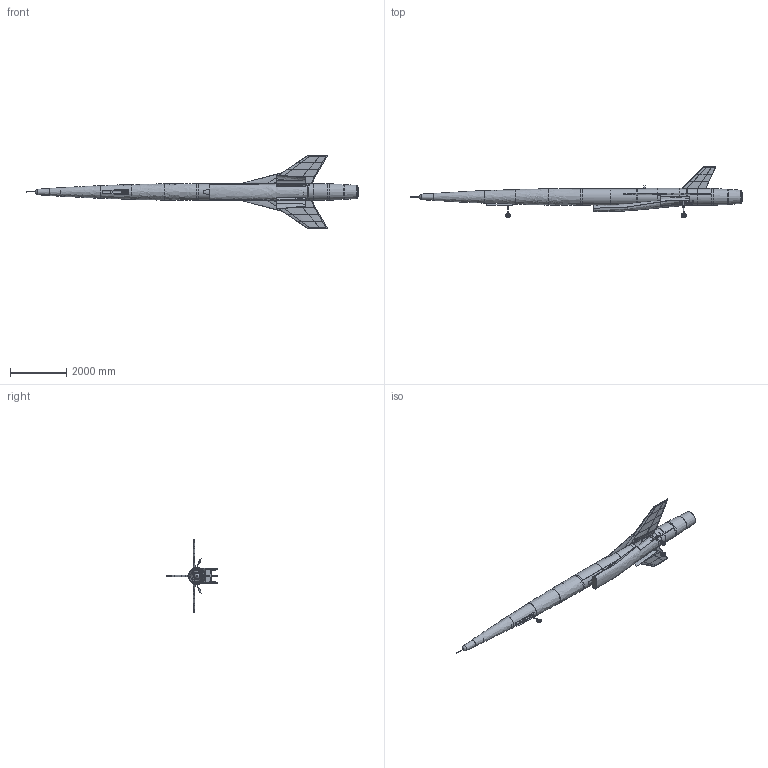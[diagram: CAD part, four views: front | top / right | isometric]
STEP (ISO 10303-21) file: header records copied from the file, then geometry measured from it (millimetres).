
FILE_DESCRIPTION(('Open CASCADE Model'),'2;1');
FILE_NAME('Open CASCADE Shape Model','2026-11-09T23:48:58',('Author'),( 'Open CASCADE'),'Open CASCADE STEP processor 7.9','Open CASCADE 7.9' ,'Unknown');
FILE_SCHEMA(('AUTOMOTIVE_DESIGN { 1 0 10303 214 1 1 1 1 }'));
Length unit declared in the file: millimetre
Products named in the file (179): superDrone_gear_down; Airframe; Fuselage skin + inlet cowl; Inlet S-duct; Aft base ring; Gear doors; MLG door stbd; MLG door port; NLG door stbd; NLG door port; Wings; Wing skin stbd; Wing skin port; Fin; Fin skin; Strakes; Strake (LERX) port; Strake (LERX) stbd; Structure; Wing stbd; Wing front spar stbd; Wing rear spar stbd; Wing rib 1 stbd; Wing rib 2 stbd; Wing rib 3 stbd; Wing rib 4 stbd; Wing rib 5 stbd; Wing port; Wing front spar port; Wing rear spar port; Wing rib 1 port; Wing rib 2 port; Wing rib 3 port; Wing rib 4 port; Wing rib 5 port; Fin front spar; Fin rear spar; Fin rib 1; Fin rib 2; Fin rib 3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
Assembly tree (178 placements, depth 4):
  superDrone_gear_down
    Airframe
      Fuselage skin + inlet cowl
      Inlet S-duct
      Aft base ring
      Gear doors
        MLG door stbd
        MLG door port
        NLG door stbd
        NLG door port
      Wings
        Wing skin stbd
        Wing skin port
      Fin
        Fin skin
      Strakes
        Strake (LERX) port
        Strake (LERX) stbd
    Structure
      Wing stbd
        Wing front spar stbd
        Wing rear spar stbd
        Wing rib 1 stbd
        Wing rib 2 stbd
        Wing rib 3 stbd
        Wing rib 4 stbd
        Wing rib 5 stbd
      Wing port
        Wing front spar port
        Wing rear spar port
        Wing rib 1 port
        Wing rib 2 port
        Wing rib 3 port
        Wing rib 4 port
        Wing rib 5 port
      Fin
        Fin front spar
        Fin rear spar
        Fin rib 1
        Fin rib 2
        Fin rib 3
        Fin rib 4
      Fuselage
        F3 tank-1 support
        F5 inlet frame
        F6 equipment-bay fwd
        F7 wing front-spar frame
        F8 wing rear-spar / MLG frame
        F9 fin front-spar / MLG trunnion frame
        F10 fin rear-spar frame
        F11 engine fwd-mount frame
        F12 engine aft-mount frame
        B1 avionics fwd bulkhead
        B2 avionics aft / NLG bay bulkhead
        B3 tank-1 fwd bulkhead
        B4 tank-1 aft bulkhead
        Longeron upper stbd
        Longeron upper port
        Longeron lower stbd fwd
        Longeron lower stbd aft
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Bounding box: 11843.73 x 1850 x 2600 mm (x, y, z)
Volume: 1398144762.9 mm3; surface area: 80194257.3 mm2
Topology: 184 solids, 184 shells, 1507 faces, 3308 edges, 2191 vertices
Faces by surface type: plane 1083, cylinder 196, bspline 133, cone 72, sphere 8, revolution 8, torus 7
Full cylindrical faces by diameter (mm): 6 x17, 8 x4, 12 x9, 13 x1, 16 x8, 17 x2, 18 x5, 20 x13, 20.2 x3, 24 x9, 25 x1, 26 x2, 30 x5, 31 x2, 34 x4, 36 x1, 40 x1, 50 x3, 52 x3, 60 x3, 80 x1, 100 x1, 105.6 x2, 118.8 x4, 150 x2, 156 x1, 160 x1, 180 x2, 200 x2, 210 x1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
Entity records: 392984 total; most frequent: CARTESIAN_POINT 324942, DIRECTION 10737, ORIENTED_EDGE 6592, PCURVE 6592, DEFINITIONAL_REPRESENTATION 6592, LINE 4790, VECTOR 4790, EDGE_CURVE 3296
